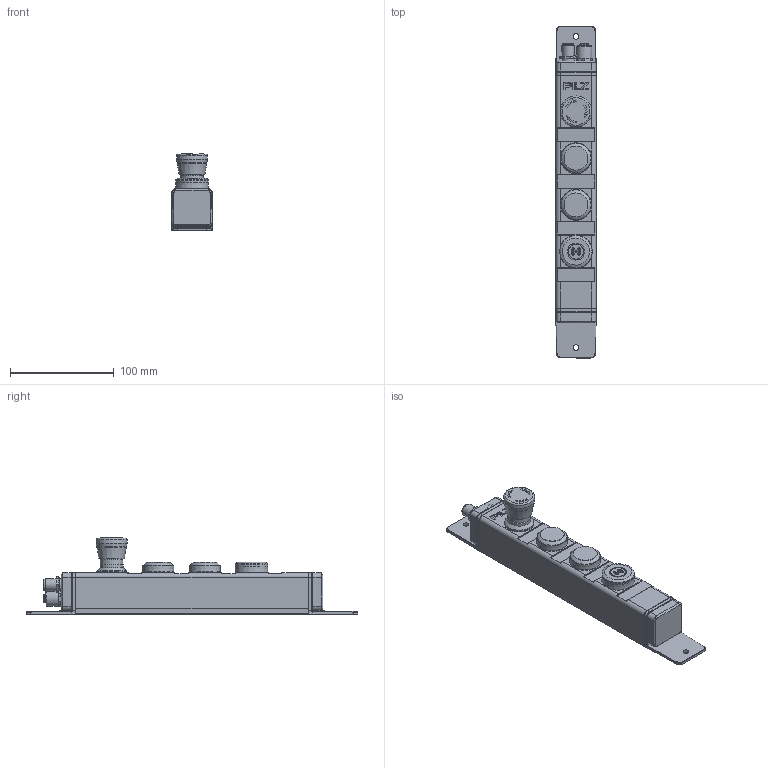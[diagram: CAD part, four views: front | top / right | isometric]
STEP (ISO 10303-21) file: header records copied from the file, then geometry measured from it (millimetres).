
FILE_DESCRIPTION(/* description */ (''),/* implementation_level */ '2;1');
FILE_NAME(/* name */ '2037346_A_PIT_gb_QLLE y up ETH.stp',/* time_stamp */ '2024-11-20T13:50:39+01:00',/* author */ ('akli'),/* organization */ (''),/* preprocessor_version */ 'ST-DEVELOPER v20',/* originating_system */ 'Autodesk Inventor 2024',/* authorisation */ '');
FILE_SCHEMA (('AUTOMOTIVE_DESIGN { 1 0 10303 214 3 1 1 }'));
Length unit declared in the file: millimetre
Products named in the file (4): 2037346; Gatebox_II_Kundendaten_card_Gehäuse; Winkeldummi; Winkeldummit mir Stecker
Assembly tree (3 placements, depth 2):
  2037346
    Gatebox_II_Kundendaten_card_Gehäuse
    Winkeldummi
    Winkeldummit mir Stecker
Bounding box: 40 x 320 x 73.65 mm (x, y, z)
Volume: 444451.7 mm3; surface area: 67463.8 mm2
Topology: 4 solids, 9 shells, 831 faces, 2052 edges, 1299 vertices
Faces by surface type: plane 358, cylinder 229, cone 123, bspline 69, torus 36, sphere 16
Full cylindrical faces by diameter (mm): 0.6 x12, 1 x4, 5.4 x2, 8.2 x1, 8.3 x1, 9.5 x1, 9.6 x1, 10.6 x1, 12 x3, 12.1 x1, 14.8 x1, 21.5 x1, 22 x4, 22.2 x1, 22.55 x1, 23 x2, 28 x1, 28.2 x1, 28.6 x2, 29.2 x2, 31.157 x1
Entity records: 28462 total; most frequent: CARTESIAN_POINT 8638, ORIENTED_EDGE 4080, DIRECTION 3896, EDGE_CURVE 2040, AXIS2_PLACEMENT_3D 1413, VERTEX_POINT 1299, LINE 1070, VECTOR 1070
